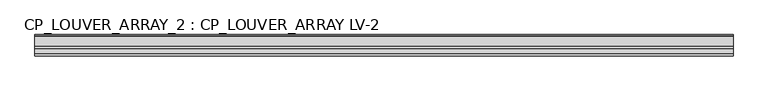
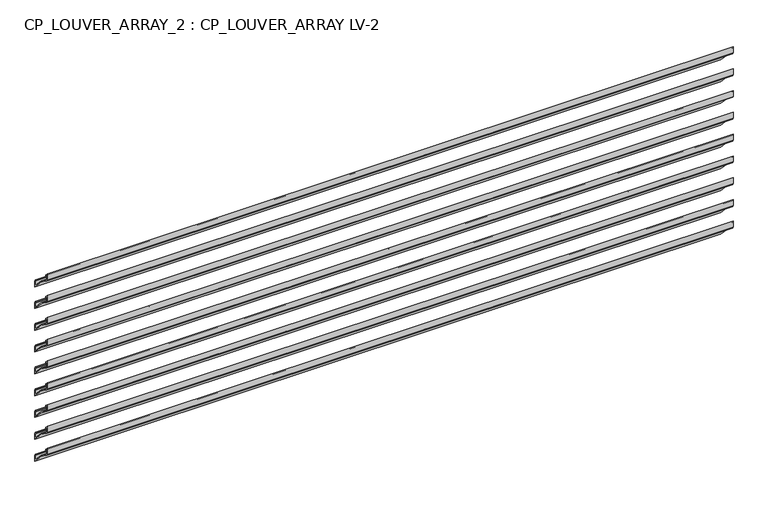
"""IFC4 building model written with IfcOpenShell, lengths in millimetres: plate geometry, CP_LOUVER_ARRAY_2 : CP_LOUVER_ARRAY LV-2."""

from ifc_helpers import new_model, si_unit, origin, place, context, project, spatial, faceted_brep, source, transform, mapped, element, save


def cp_louver_array_2_cp_louver_array_lv_2_a387d438(model_context):
    return source(origin(), model_context, "Body", "Brep", [
        faceted_brep([(755.65, -96.3393096, 447.5165033), (755.65, -69.85, 419.1101965), (755.65, -69.85, 432.9818805), (755.65, -71.4632993, 436.1728583), (755.65, -73.025, 437.3225348), (755.65, -73.025, 435.4301063), (755.65, -71.374, 432.9818805), (755.65, -71.374, 422.9790959), (755.65, -94.5749864, 447.8480819), (755.65, -99.9681804, 451.7002768), (755.65, -113.6250477, 461.357519), (755.65, -114.6556, 463.3484382), (755.65, -114.6556, 473.3034961), (755.65, -111.4806, 469.8987254), (755.65, -111.4806, 472.1333349), (755.65, -116.1796, 477.1723955), (755.65, -116.1796, 463.3484382), (755.65, -114.5049525, 460.1131944), (755.65, -100.8480853, 450.4559523), (-755.65, -96.3393096, 447.5165033), (-755.65, -100.8480853, 450.4559523), (-755.65, -114.5049525, 460.1131944), (-755.65, -116.1796, 463.3484382), (-755.65, -116.1796, 477.1723955), (-755.65, -111.4806, 472.1333349), (-755.65, -111.4806, 469.8987254), (-755.65, -114.6556, 473.3034961), (-755.65, -114.6556, 463.3484382), (-755.65, -113.6250477, 461.357519), (-755.65, -99.9681804, 451.7002768), (-755.65, -94.5749864, 447.8480819), (-755.65, -71.3542993, 422.9975045), (-755.65, -71.374, 432.9818805), (-755.65, -73.025, 435.4301063), (-755.65, -73.025, 437.3225348), (-755.65, -71.4632993, 436.1728583), (-755.65, -69.85, 432.9818805), (-755.65, -69.85, 419.1101965)], [[[0, 1, 2, 3, 4, 5, 6, 7, 8, 9, 10, 11, 12, 13, 14, 15, 16, 17, 18]], [[19, 20, 21, 22, 23, 24, 25, 26, 27, 28, 29, 30, 31, 32, 33, 34, 35, 36, 37]], [[1, 0, 19, 37]], [[2, 1, 37, 36]], [[3, 2, 36, 35]], [[4, 3, 35, 34]], [[5, 4, 34, 33]], [[6, 5, 33, 32]], [[7, 6, 32, 31]], [[7, 31, 30, 8]], [[9, 8, 30, 29]], [[10, 9, 29, 28]], [[11, 10, 28, 27]], [[12, 11, 27, 26]], [[13, 12, 26, 25]], [[14, 13, 25, 24]], [[15, 14, 24, 23]], [[16, 15, 23, 22]], [[17, 16, 22, 21]], [[18, 17, 21, 20]], [[0, 18, 20, 19]]]),
        faceted_brep([(755.65, -96.3393096, 396.7152288), (755.65, -69.85, 368.308922), (755.65, -69.85, 382.1806059), (755.65, -71.4632993, 385.3715838), (755.65, -73.025, 386.5212603), (755.65, -73.025, 384.6288317), (755.65, -71.374, 382.1806059), (755.65, -71.374, 372.1778214), (755.65, -94.5749864, 397.0468074), (755.65, -99.9681804, 400.8990022), (755.65, -113.6250477, 410.5562444), (755.65, -114.6556, 412.5471636), (755.65, -114.6556, 422.5022215), (755.65, -111.4806, 419.0974509), (755.65, -111.4806, 421.3320603), (755.65, -116.1796, 426.3711209), (755.65, -116.1796, 412.5471636), (755.65, -114.5049525, 409.3119199), (755.65, -100.8480853, 399.6546777), (-755.65, -96.3393096, 396.7152288), (-755.65, -100.8480853, 399.6546777), (-755.65, -114.5049525, 409.3119199), (-755.65, -116.1796, 412.5471636), (-755.65, -116.1796, 426.3711209), (-755.65, -111.4806, 421.3320603), (-755.65, -111.4806, 419.0974509), (-755.65, -114.6556, 422.5022215), (-755.65, -114.6556, 412.5471636), (-755.65, -113.6250477, 410.5562444), (-755.65, -99.9681804, 400.8990022), (-755.65, -94.5749864, 397.0468074), (-755.65, -71.3542993, 372.1962299), (-755.65, -71.374, 382.1806059), (-755.65, -73.025, 384.6288317), (-755.65, -73.025, 386.5212603), (-755.65, -71.4632993, 385.3715838), (-755.65, -69.85, 382.1806059), (-755.65, -69.85, 368.308922)], [[[0, 1, 2, 3, 4, 5, 6, 7, 8, 9, 10, 11, 12, 13, 14, 15, 16, 17, 18]], [[19, 20, 21, 22, 23, 24, 25, 26, 27, 28, 29, 30, 31, 32, 33, 34, 35, 36, 37]], [[1, 0, 19, 37]], [[2, 1, 37, 36]], [[3, 2, 36, 35]], [[4, 3, 35, 34]], [[5, 4, 34, 33]], [[6, 5, 33, 32]], [[7, 6, 32, 31]], [[7, 31, 30, 8]], [[9, 8, 30, 29]], [[10, 9, 29, 28]], [[11, 10, 28, 27]], [[12, 11, 27, 26]], [[13, 12, 26, 25]], [[14, 13, 25, 24]], [[15, 14, 24, 23]], [[16, 15, 23, 22]], [[17, 16, 22, 21]], [[18, 17, 21, 20]], [[0, 18, 20, 19]]]),
        faceted_brep([(755.65, -96.3393096, 345.9139542), (755.65, -69.85, 317.5076474), (755.65, -69.85, 331.3793314), (755.65, -71.4632993, 334.5703092), (755.65, -73.025, 335.7199857), (755.65, -73.025, 333.8275571), (755.65, -71.374, 331.3793314), (755.65, -71.374, 321.3765468), (755.65, -94.5749864, 346.2455328), (755.65, -99.9681804, 350.0977276), (755.65, -113.6250477, 359.7549698), (755.65, -114.6556, 361.7458891), (755.65, -114.6556, 371.7009469), (755.65, -111.4806, 368.2961763), (755.65, -111.4806, 370.5307858), (755.65, -116.1796, 375.5698463), (755.65, -116.1796, 361.7458891), (755.65, -114.5049525, 358.5106453), (755.65, -100.8480853, 348.8534031), (-755.65, -96.3393096, 345.9139542), (-755.65, -100.8480853, 348.8534031), (-755.65, -114.5049525, 358.5106453), (-755.65, -116.1796, 361.7458891), (-755.65, -116.1796, 375.5698463), (-755.65, -111.4806, 370.5307858), (-755.65, -111.4806, 368.2961763), (-755.65, -114.6556, 371.7009469), (-755.65, -114.6556, 361.7458891), (-755.65, -113.6250477, 359.7549698), (-755.65, -99.9681804, 350.0977276), (-755.65, -94.5749864, 346.2455328), (-755.65, -71.3542993, 321.3949553), (-755.65, -71.374, 331.3793314), (-755.65, -73.025, 333.8275571), (-755.65, -73.025, 335.7199857), (-755.65, -71.4632993, 334.5703092), (-755.65, -69.85, 331.3793314), (-755.65, -69.85, 317.5076474)], [[[0, 1, 2, 3, 4, 5, 6, 7, 8, 9, 10, 11, 12, 13, 14, 15, 16, 17, 18]], [[19, 20, 21, 22, 23, 24, 25, 26, 27, 28, 29, 30, 31, 32, 33, 34, 35, 36, 37]], [[1, 0, 19, 37]], [[2, 1, 37, 36]], [[3, 2, 36, 35]], [[4, 3, 35, 34]], [[5, 4, 34, 33]], [[6, 5, 33, 32]], [[7, 6, 32, 31]], [[7, 31, 30, 8]], [[9, 8, 30, 29]], [[10, 9, 29, 28]], [[11, 10, 28, 27]], [[12, 11, 27, 26]], [[13, 12, 26, 25]], [[14, 13, 25, 24]], [[15, 14, 24, 23]], [[16, 15, 23, 22]], [[17, 16, 22, 21]], [[18, 17, 21, 20]], [[0, 18, 20, 19]]]),
        faceted_brep([(755.65, -96.3393096, 295.1126796), (755.65, -69.85, 266.7063728), (755.65, -69.85, 280.5780568), (755.65, -71.4632993, 283.7690346), (755.65, -73.025, 284.9187111), (755.65, -73.025, 283.0262826), (755.65, -71.374, 280.5780568), (755.65, -71.374, 270.5752722), (755.65, -94.5749864, 295.4442582), (755.65, -99.9681804, 299.2964531), (755.65, -113.6250477, 308.9536953), (755.65, -114.6556, 310.9446145), (755.65, -114.6556, 320.8996724), (755.65, -111.4806, 317.4949017), (755.65, -111.4806, 319.7295112), (755.65, -116.1796, 324.7685718), (755.65, -116.1796, 310.9446145), (755.65, -114.5049525, 307.7093707), (755.65, -100.8480853, 298.0521286), (-755.65, -96.3393096, 295.1126796), (-755.65, -100.8480853, 298.0521286), (-755.65, -114.5049525, 307.7093707), (-755.65, -116.1796, 310.9446145), (-755.65, -116.1796, 324.7685718), (-755.65, -111.4806, 319.7295112), (-755.65, -111.4806, 317.4949017), (-755.65, -114.6556, 320.8996724), (-755.65, -114.6556, 310.9446145), (-755.65, -113.6250477, 308.9536953), (-755.65, -99.9681804, 299.2964531), (-755.65, -94.5749864, 295.4442582), (-755.65, -71.3542993, 270.5936808), (-755.65, -71.374, 280.5780568), (-755.65, -73.025, 283.0262826), (-755.65, -73.025, 284.9187111), (-755.65, -71.4632993, 283.7690346), (-755.65, -69.85, 280.5780568), (-755.65, -69.85, 266.7063728)], [[[0, 1, 2, 3, 4, 5, 6, 7, 8, 9, 10, 11, 12, 13, 14, 15, 16, 17, 18]], [[19, 20, 21, 22, 23, 24, 25, 26, 27, 28, 29, 30, 31, 32, 33, 34, 35, 36, 37]], [[1, 0, 19, 37]], [[2, 1, 37, 36]], [[3, 2, 36, 35]], [[4, 3, 35, 34]], [[5, 4, 34, 33]], [[6, 5, 33, 32]], [[7, 6, 32, 31]], [[7, 31, 30, 8]], [[9, 8, 30, 29]], [[10, 9, 29, 28]], [[11, 10, 28, 27]], [[12, 11, 27, 26]], [[13, 12, 26, 25]], [[14, 13, 25, 24]], [[15, 14, 24, 23]], [[16, 15, 23, 22]], [[17, 16, 22, 21]], [[18, 17, 21, 20]], [[0, 18, 20, 19]]]),
        faceted_brep([(755.65, -96.3393096, 244.3114051), (755.65, -69.85, 215.9050983), (755.65, -69.85, 229.7767822), (755.65, -71.4632993, 232.9677601), (755.65, -73.025, 234.1174365), (755.65, -73.025, 232.225008), (755.65, -71.374, 229.7767822), (755.65, -71.374, 219.7739977), (755.65, -94.5749864, 244.6429837), (755.65, -99.9681804, 248.4951785), (755.65, -113.6250477, 258.1524207), (755.65, -114.6556, 260.1433399), (755.65, -114.6556, 270.0983978), (755.65, -111.4806, 266.6936272), (755.65, -111.4806, 268.9282366), (755.65, -116.1796, 273.9672972), (755.65, -116.1796, 260.1433399), (755.65, -114.5049525, 256.9080962), (755.65, -100.8480853, 247.250854), (-755.65, -96.3393096, 244.3114051), (-755.65, -100.8480853, 247.250854), (-755.65, -114.5049525, 256.9080962), (-755.65, -116.1796, 260.1433399), (-755.65, -116.1796, 273.9672972), (-755.65, -111.4806, 268.9282366), (-755.65, -111.4806, 266.6936272), (-755.65, -114.6556, 270.0983978), (-755.65, -114.6556, 260.1433399), (-755.65, -113.6250477, 258.1524207), (-755.65, -99.9681804, 248.4951785), (-755.65, -94.5749864, 244.6429837), (-755.65, -71.3542993, 219.7924062), (-755.65, -71.374, 229.7767822), (-755.65, -73.025, 232.225008), (-755.65, -73.025, 234.1174365), (-755.65, -71.4632993, 232.9677601), (-755.65, -69.85, 229.7767822), (-755.65, -69.85, 215.9050983)], [[[0, 1, 2, 3, 4, 5, 6, 7, 8, 9, 10, 11, 12, 13, 14, 15, 16, 17, 18]], [[19, 20, 21, 22, 23, 24, 25, 26, 27, 28, 29, 30, 31, 32, 33, 34, 35, 36, 37]], [[1, 0, 19, 37]], [[2, 1, 37, 36]], [[3, 2, 36, 35]], [[4, 3, 35, 34]], [[5, 4, 34, 33]], [[6, 5, 33, 32]], [[7, 6, 32, 31]], [[7, 31, 30, 8]], [[9, 8, 30, 29]], [[10, 9, 29, 28]], [[11, 10, 28, 27]], [[12, 11, 27, 26]], [[13, 12, 26, 25]], [[14, 13, 25, 24]], [[15, 14, 24, 23]], [[16, 15, 23, 22]], [[17, 16, 22, 21]], [[18, 17, 21, 20]], [[0, 18, 20, 19]]]),
        faceted_brep([(755.65, -96.3393096, 193.5101305), (755.65, -69.85, 165.1038237), (755.65, -69.85, 178.9755076), (755.65, -71.4632993, 182.1664855), (755.65, -73.025, 183.316162), (755.65, -73.025, 181.4237334), (755.65, -71.374, 178.9755076), (755.65, -71.374, 168.9727231), (755.65, -94.5749864, 193.8417091), (755.65, -99.9681804, 197.6939039), (755.65, -113.6250477, 207.3511461), (755.65, -114.6556, 209.3420654), (755.65, -114.6556, 219.2971232), (755.65, -111.4806, 215.8923526), (755.65, -111.4806, 218.1269621), (755.65, -116.1796, 223.1660226), (755.65, -116.1796, 209.3420654), (755.65, -114.5049525, 206.1068216), (755.65, -100.8480853, 196.4495794), (-755.65, -96.3393096, 193.5101305), (-755.65, -100.8480853, 196.4495794), (-755.65, -114.5049525, 206.1068216), (-755.65, -116.1796, 209.3420654), (-755.65, -116.1796, 223.1660226), (-755.65, -111.4806, 218.1269621), (-755.65, -111.4806, 215.8923526), (-755.65, -114.6556, 219.2971232), (-755.65, -114.6556, 209.3420654), (-755.65, -113.6250477, 207.3511461), (-755.65, -99.9681804, 197.6939039), (-755.65, -94.5749864, 193.8417091), (-755.65, -71.3542993, 168.9911316), (-755.65, -71.374, 178.9755076), (-755.65, -73.025, 181.4237334), (-755.65, -73.025, 183.316162), (-755.65, -71.4632993, 182.1664855), (-755.65, -69.85, 178.9755076), (-755.65, -69.85, 165.1038237)], [[[0, 1, 2, 3, 4, 5, 6, 7, 8, 9, 10, 11, 12, 13, 14, 15, 16, 17, 18]], [[19, 20, 21, 22, 23, 24, 25, 26, 27, 28, 29, 30, 31, 32, 33, 34, 35, 36, 37]], [[1, 0, 19, 37]], [[2, 1, 37, 36]], [[3, 2, 36, 35]], [[4, 3, 35, 34]], [[5, 4, 34, 33]], [[6, 5, 33, 32]], [[7, 6, 32, 31]], [[7, 31, 30, 8]], [[9, 8, 30, 29]], [[10, 9, 29, 28]], [[11, 10, 28, 27]], [[12, 11, 27, 26]], [[13, 12, 26, 25]], [[14, 13, 25, 24]], [[15, 14, 24, 23]], [[16, 15, 23, 22]], [[17, 16, 22, 21]], [[18, 17, 21, 20]], [[0, 18, 20, 19]]]),
        faceted_brep([(755.65, -96.3393096, 142.7088559), (755.65, -69.85, 114.3025491), (755.65, -69.85, 128.1742331), (755.65, -71.4632993, 131.3652109), (755.65, -73.025, 132.5148874), (755.65, -73.025, 130.6224589), (755.65, -71.374, 128.1742331), (755.65, -71.374, 118.1714485), (755.65, -94.5749864, 143.0404345), (755.65, -99.9681804, 146.8926294), (755.65, -113.6250477, 156.5498716), (755.65, -114.6556, 158.5407908), (755.65, -114.6556, 168.4958487), (755.65, -111.4806, 165.091078), (755.65, -111.4806, 167.3256875), (755.65, -116.1796, 172.3647481), (755.65, -116.1796, 158.5407908), (755.65, -114.5049525, 155.305547), (755.65, -100.8480853, 145.6483048), (-755.65, -96.3393096, 142.7088559), (-755.65, -100.8480853, 145.6483048), (-755.65, -114.5049525, 155.305547), (-755.65, -116.1796, 158.5407908), (-755.65, -116.1796, 172.3647481), (-755.65, -111.4806, 167.3256875), (-755.65, -111.4806, 165.091078), (-755.65, -114.6556, 168.4958487), (-755.65, -114.6556, 158.5407908), (-755.65, -113.6250477, 156.5498716), (-755.65, -99.9681804, 146.8926294), (-755.65, -94.5749864, 143.0404345), (-755.65, -71.3542993, 118.1898571), (-755.65, -71.374, 128.1742331), (-755.65, -73.025, 130.6224589), (-755.65, -73.025, 132.5148874), (-755.65, -71.4632993, 131.3652109), (-755.65, -69.85, 128.1742331), (-755.65, -69.85, 114.3025491)], [[[0, 1, 2, 3, 4, 5, 6, 7, 8, 9, 10, 11, 12, 13, 14, 15, 16, 17, 18]], [[19, 20, 21, 22, 23, 24, 25, 26, 27, 28, 29, 30, 31, 32, 33, 34, 35, 36, 37]], [[1, 0, 19, 37]], [[2, 1, 37, 36]], [[3, 2, 36, 35]], [[4, 3, 35, 34]], [[5, 4, 34, 33]], [[6, 5, 33, 32]], [[7, 6, 32, 31]], [[7, 31, 30, 8]], [[9, 8, 30, 29]], [[10, 9, 29, 28]], [[11, 10, 28, 27]], [[12, 11, 27, 26]], [[13, 12, 26, 25]], [[14, 13, 25, 24]], [[15, 14, 24, 23]], [[16, 15, 23, 22]], [[17, 16, 22, 21]], [[18, 17, 21, 20]], [[0, 18, 20, 19]]]),
        faceted_brep([(755.65, -96.3393096, 91.9075814), (755.65, -69.85, 63.5012746), (755.65, -69.85, 77.3729585), (755.65, -71.4632993, 80.5639364), (755.65, -73.025, 81.7136128), (755.65, -73.025, 79.8211843), (755.65, -71.374, 77.3729585), (755.65, -71.374, 67.370174), (755.65, -94.5749864, 92.23916), (755.65, -99.9681804, 96.0913548), (755.65, -113.6250477, 105.748597), (755.65, -114.6556, 107.7395162), (755.65, -114.6556, 117.6945741), (755.65, -111.4806, 114.2898035), (755.65, -111.4806, 116.5244129), (755.65, -116.1796, 121.5634735), (755.65, -116.1796, 107.7395162), (755.65, -114.5049525, 104.5042725), (755.65, -100.8480853, 94.8470303), (-755.65, -96.3393096, 91.9075814), (-755.65, -100.8480853, 94.8470303), (-755.65, -114.5049525, 104.5042725), (-755.65, -116.1796, 107.7395162), (-755.65, -116.1796, 121.5634735), (-755.65, -111.4806, 116.5244129), (-755.65, -111.4806, 114.2898035), (-755.65, -114.6556, 117.6945741), (-755.65, -114.6556, 107.7395162), (-755.65, -113.6250477, 105.748597), (-755.65, -99.9681804, 96.0913548), (-755.65, -94.5749864, 92.23916), (-755.65, -71.3542993, 67.3885825), (-755.65, -71.374, 77.3729585), (-755.65, -73.025, 79.8211843), (-755.65, -73.025, 81.7136128), (-755.65, -71.4632993, 80.5639364), (-755.65, -69.85, 77.3729585), (-755.65, -69.85, 63.5012746)], [[[0, 1, 2, 3, 4, 5, 6, 7, 8, 9, 10, 11, 12, 13, 14, 15, 16, 17, 18]], [[19, 20, 21, 22, 23, 24, 25, 26, 27, 28, 29, 30, 31, 32, 33, 34, 35, 36, 37]], [[1, 0, 19, 37]], [[2, 1, 37, 36]], [[3, 2, 36, 35]], [[4, 3, 35, 34]], [[5, 4, 34, 33]], [[6, 5, 33, 32]], [[7, 6, 32, 31]], [[7, 31, 30, 8]], [[9, 8, 30, 29]], [[10, 9, 29, 28]], [[11, 10, 28, 27]], [[12, 11, 27, 26]], [[13, 12, 26, 25]], [[14, 13, 25, 24]], [[15, 14, 24, 23]], [[16, 15, 23, 22]], [[17, 16, 22, 21]], [[18, 17, 21, 20]], [[0, 18, 20, 19]]]),
        faceted_brep([(755.65, -96.3393096, 41.1063068), (755.65, -69.85, 12.7), (755.65, -69.85, 26.5716839), (755.65, -71.4632993, 29.7626618), (755.65, -73.025, 30.9123383), (755.65, -73.025, 29.0199097), (755.65, -71.374, 26.5716839), (755.65, -71.374, 16.5688994), (755.65, -94.5749864, 41.4378854), (755.65, -99.9681804, 45.2900802), (755.65, -113.6250477, 54.9473224), (755.65, -114.6556, 56.9382417), (755.65, -114.6556, 66.8932995), (755.65, -111.4806, 63.4885289), (755.65, -111.4806, 65.7231384), (755.65, -116.1796, 70.7621989), (755.65, -116.1796, 56.9382417), (755.65, -114.5049525, 53.7029979), (755.65, -100.8480853, 44.0457557), (-755.65, -96.3393096, 41.1063068), (-755.65, -100.8480853, 44.0457557), (-755.65, -114.5049525, 53.7029979), (-755.65, -116.1796, 56.9382417), (-755.65, -116.1796, 70.7621989), (-755.65, -111.4806, 65.7231384), (-755.65, -111.4806, 63.4885289), (-755.65, -114.6556, 66.8932995), (-755.65, -114.6556, 56.9382417), (-755.65, -113.6250477, 54.9473224), (-755.65, -99.9681804, 45.2900802), (-755.65, -94.5749864, 41.4378854), (-755.65, -71.3542993, 16.5873079), (-755.65, -71.374, 26.5716839), (-755.65, -73.025, 29.0199097), (-755.65, -73.025, 30.9123383), (-755.65, -71.4632993, 29.7626618), (-755.65, -69.85, 26.5716839), (-755.65, -69.85, 12.7)], [[[0, 1, 2, 3, 4, 5, 6, 7, 8, 9, 10, 11, 12, 13, 14, 15, 16, 17, 18]], [[19, 20, 21, 22, 23, 24, 25, 26, 27, 28, 29, 30, 31, 32, 33, 34, 35, 36, 37]], [[1, 0, 19, 37]], [[2, 1, 37, 36]], [[3, 2, 36, 35]], [[4, 3, 35, 34]], [[5, 4, 34, 33]], [[6, 5, 33, 32]], [[7, 6, 32, 31]], [[7, 31, 30, 8]], [[9, 8, 30, 29]], [[10, 9, 29, 28]], [[11, 10, 28, 27]], [[12, 11, 27, 26]], [[13, 12, 26, 25]], [[14, 13, 25, 24]], [[15, 14, 24, 23]], [[16, 15, 23, 22]], [[17, 16, 22, 21]], [[18, 17, 21, 20]], [[0, 18, 20, 19]]]),
    ])


if __name__ == "__main__":
    model = new_model("IFC4")
    model_context = context("Model", 3, world=origin())
    ifc_project = project(units=[si_unit("LENGTHUNIT", "METRE", prefix="MILLI")], contexts=[model_context])
    site = spatial("IfcSite", under=ifc_project)
    building = spatial("IfcBuilding", under=site)
    placement = place(None, origin())
    cp_louver_array_2_cp_louver_array_lv_2_shape = cp_louver_array_2_cp_louver_array_lv_2_a387d438(model_context)
    element("IfcPlate", 1, ObjectType="CP_LOUVER_ARRAY_2 : CP_LOUVER_ARRAY LV-2", at=placement, inside=building, context=model_context, shape_type="MappedRepresentation", body=[
        mapped(cp_louver_array_2_cp_louver_array_lv_2_shape, transform((0.0, 0.0, 0.0), x_axis=(1.0, 0.0, 0.0), y_axis=(0.0, 1.0, 0.0), z_axis=(0.0, 0.0, 1.0))),
    ])
    save(model, "model.ifc")
